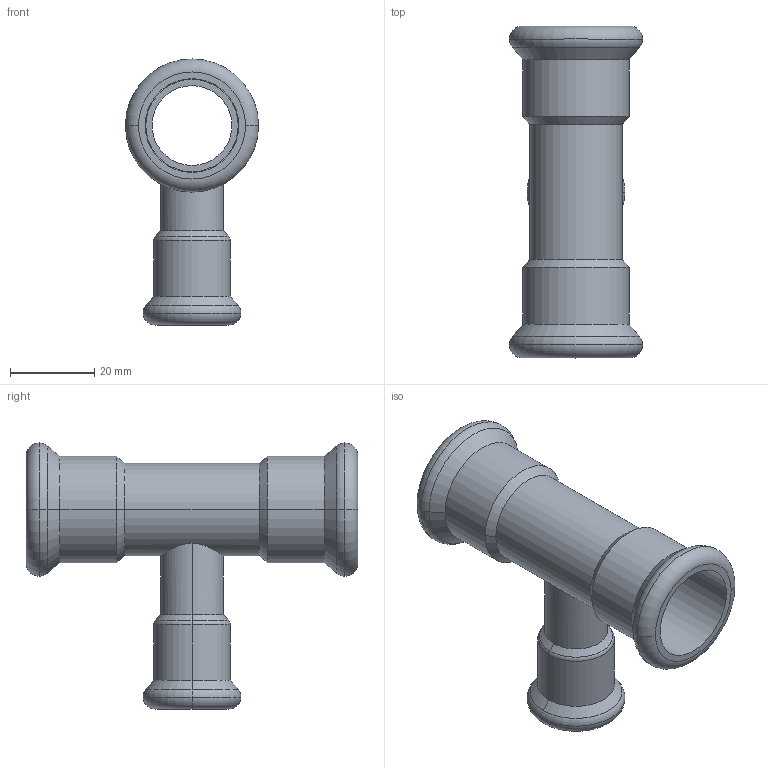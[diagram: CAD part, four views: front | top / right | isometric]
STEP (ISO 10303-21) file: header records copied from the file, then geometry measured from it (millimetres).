
FILE_DESCRIPTION(('CoCreate Modeling STEP Export'),'2;1');
FILE_NAME('C1415 22x15x22.stp','2014-11-11T17:05:47',(''),(''),'CoCreate Modeling STEP processor for AP214 (Solid Model)','CoCreate Modeling 17.00A 17-Jun-2010 (C) Parametric Technology GmbH','');
FILE_SCHEMA(('AUTOMOTIVE_DESIGN { 1 0 10303 214 1 1 1 1 }'));
Length unit declared in the file: millimetre
Products named in the file (2): C1415_22x15x22
Assembly tree (1 placements, depth 2):
  C1415_22x15x22
    C1415_22x15x22
Bounding box: 31.7 x 79 x 63.35 mm (x, y, z)
Volume: 15064.9 mm3; surface area: 16499.9 mm2
Topology: 1 solids, 1 shells, 62 faces, 127 edges, 75 vertices
Faces by surface type: cylinder 27, torus 14, cone 12, plane 9
Entity records: 2316 total; most frequent: CARTESIAN_POINT 1157, ORIENTED_EDGE 254, DIRECTION 204, EDGE_CURVE 127, AXIS2_PLACEMENT_3D 83, VERTEX_POINT 75, EDGE_LOOP 72, FACE_OUTER_BOUND 62
